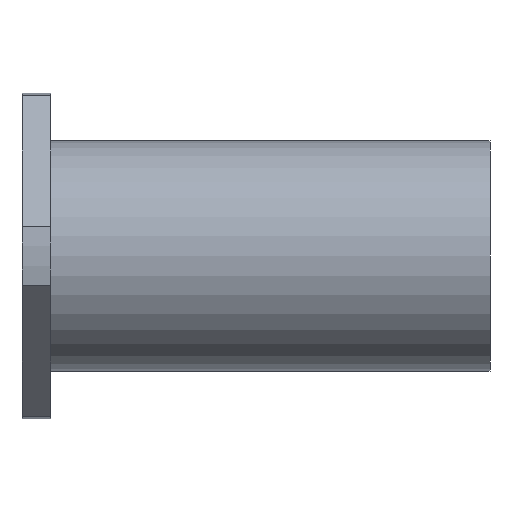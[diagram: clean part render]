
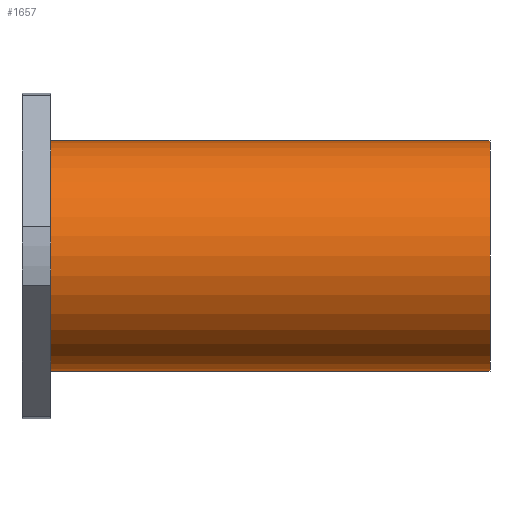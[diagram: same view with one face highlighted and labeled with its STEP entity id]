
A CAD part, front view. The second image highlights one B-rep face of the part: STEP entity #1657.
In plain terms, the highlighted cylindrical face has radius 60 mm (diameter 120 mm), a full revolution.
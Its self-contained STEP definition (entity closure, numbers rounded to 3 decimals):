
#439=CARTESIAN_POINT('',(15.,0.0,60.0));
#440=VERTEX_POINT('',#439);
#441=CARTESIAN_POINT('',(15.,0.0,0.0));
#442=DIRECTION('',(-1.0,0.0,0.0));
#443=DIRECTION('',(0.0,0.0,1.0));
#444=AXIS2_PLACEMENT_3D('',#441,#442,#443);
#445=CIRCLE('',#444,60.0);
#446=EDGE_CURVE('',#440,#440,#445,.T.);
#1638=CARTESIAN_POINT('',(129.5,0.0,0.0));
#1639=DIRECTION('',(-1.0,0.0,0.0));
#1640=DIRECTION('',(0.0,0.0,1.0));
#1641=AXIS2_PLACEMENT_3D('',#1638,#1639,#1640);
#1642=CYLINDRICAL_SURFACE('',#1641,60.);
#1643=ORIENTED_EDGE('',*,*,#446,.F.);
#1644=EDGE_LOOP('',(#1643));
#1645=FACE_OUTER_BOUND('',#1644,.T.);
#1646=CARTESIAN_POINT('',(244.0,0.0,60.));
#1647=VERTEX_POINT('',#1646);
#1648=CARTESIAN_POINT('',(244.0,0.0,0.0));
#1649=DIRECTION('',(-1.0,0.0,0.0));
#1650=DIRECTION('',(0.0,0.0,1.0));
#1651=AXIS2_PLACEMENT_3D('',#1648,#1649,#1650);
#1652=CIRCLE('',#1651,60.);
#1653=EDGE_CURVE('',#1647,#1647,#1652,.T.);
#1654=ORIENTED_EDGE('',*,*,#1653,.T.);
#1655=EDGE_LOOP('',(#1654));
#1656=FACE_BOUND('',#1655,.T.);
#1657=ADVANCED_FACE('',(#1645,#1656),#1642,.T.);
